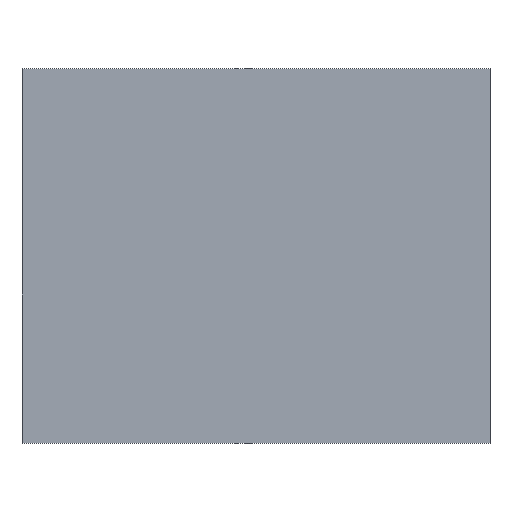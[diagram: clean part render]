
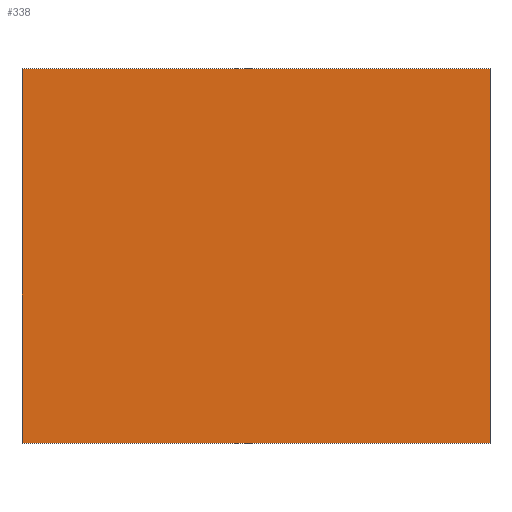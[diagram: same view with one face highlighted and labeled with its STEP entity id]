
A CAD part, top view. The second image highlights one B-rep face of the part: STEP entity #338.
In plain terms, the highlighted planar face has unit normal (0, 0, 1).
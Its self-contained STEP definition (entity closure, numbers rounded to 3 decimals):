
#24 = VERTEX_POINT('',#25);
#25 = CARTESIAN_POINT('',(100.,-80.,20.));
#32 = PLANE('',#33);
#33 = AXIS2_PLACEMENT_3D('',#34,#35,#36);
#34 = CARTESIAN_POINT('',(100.,-80.,0.));
#35 = DIRECTION('',(-0.,1.,-0.));
#36 = DIRECTION('',(1.,0.,0.));
#44 = PLANE('',#45);
#45 = AXIS2_PLACEMENT_3D('',#46,#47,#48);
#46 = CARTESIAN_POINT('',(100.,80.,0.));
#47 = DIRECTION('',(-1.,-0.,-0.));
#48 = DIRECTION('',(0.,1.,0.));
#56 = EDGE_CURVE('',#24,#57,#59,.T.);
#57 = VERTEX_POINT('',#58);
#58 = CARTESIAN_POINT('',(-100.,-80.,20.));
#59 = SURFACE_CURVE('',#60,(#64,#71),.PCURVE_S1.);
#60 = LINE('',#61,#62);
#61 = CARTESIAN_POINT('',(100.,-80.,20.));
#62 = VECTOR('',#63,1.);
#63 = DIRECTION('',(-1.,-0.,-0.));
#64 = PCURVE('',#32,#65);
#65 = DEFINITIONAL_REPRESENTATION('',(#66),#70);
#66 = LINE('',#67,#68);
#67 = CARTESIAN_POINT('',(-0.,-20.));
#68 = VECTOR('',#69,1.);
#69 = DIRECTION('',(-1.,0.));
#70 = ( GEOMETRIC_REPRESENTATION_CONTEXT(2) 
PARAMETRIC_REPRESENTATION_CONTEXT() REPRESENTATION_CONTEXT('2D SPACE',''
  ) );
#71 = PCURVE('',#72,#77);
#72 = PLANE('',#73);
#73 = AXIS2_PLACEMENT_3D('',#74,#75,#76);
#74 = CARTESIAN_POINT('',(0.,0.,20.));
#75 = DIRECTION('',(-0.,-0.,1.));
#76 = DIRECTION('',(1.,0.,0.));
#77 = DEFINITIONAL_REPRESENTATION('',(#78),#82);
#78 = LINE('',#79,#80);
#79 = CARTESIAN_POINT('',(100.,-80.));
#80 = VECTOR('',#81,1.);
#81 = DIRECTION('',(-1.,0.));
#82 = ( GEOMETRIC_REPRESENTATION_CONTEXT(2) 
PARAMETRIC_REPRESENTATION_CONTEXT() REPRESENTATION_CONTEXT('2D SPACE',''
  ) );
#100 = PLANE('',#101);
#101 = AXIS2_PLACEMENT_3D('',#102,#103,#104);
#102 = CARTESIAN_POINT('',(-100.,-80.,0.));
#103 = DIRECTION('',(1.,-0.,-0.));
#104 = DIRECTION('',(0.,-1.,0.));
#142 = EDGE_CURVE('',#57,#143,#145,.T.);
#143 = VERTEX_POINT('',#144);
#144 = CARTESIAN_POINT('',(-100.,80.,20.));
#145 = SURFACE_CURVE('',#146,(#150,#157),.PCURVE_S1.);
#146 = LINE('',#147,#148);
#147 = CARTESIAN_POINT('',(-100.,-80.,20.));
#148 = VECTOR('',#149,1.);
#149 = DIRECTION('',(-0.,1.,-0.));
#150 = PCURVE('',#100,#151);
#151 = DEFINITIONAL_REPRESENTATION('',(#152),#156);
#152 = LINE('',#153,#154);
#153 = CARTESIAN_POINT('',(-0.,-20.));
#154 = VECTOR('',#155,1.);
#155 = DIRECTION('',(-1.,0.));
#156 = ( GEOMETRIC_REPRESENTATION_CONTEXT(2) 
PARAMETRIC_REPRESENTATION_CONTEXT() REPRESENTATION_CONTEXT('2D SPACE',''
  ) );
#157 = PCURVE('',#72,#158);
#158 = DEFINITIONAL_REPRESENTATION('',(#159),#163);
#159 = LINE('',#160,#161);
#160 = CARTESIAN_POINT('',(-100.,-80.));
#161 = VECTOR('',#162,1.);
#162 = DIRECTION('',(-0.,1.));
#163 = ( GEOMETRIC_REPRESENTATION_CONTEXT(2) 
PARAMETRIC_REPRESENTATION_CONTEXT() REPRESENTATION_CONTEXT('2D SPACE',''
  ) );
#181 = PLANE('',#182);
#182 = AXIS2_PLACEMENT_3D('',#183,#184,#185);
#183 = CARTESIAN_POINT('',(-100.,80.,0.));
#184 = DIRECTION('',(-0.,-1.,-0.));
#185 = DIRECTION('',(-1.,0.,0.));
#218 = EDGE_CURVE('',#143,#219,#221,.T.);
#219 = VERTEX_POINT('',#220);
#220 = CARTESIAN_POINT('',(100.,80.,20.));
#221 = SURFACE_CURVE('',#222,(#226,#233),.PCURVE_S1.);
#222 = LINE('',#223,#224);
#223 = CARTESIAN_POINT('',(-100.,80.,20.));
#224 = VECTOR('',#225,1.);
#225 = DIRECTION('',(1.,-0.,-0.));
#226 = PCURVE('',#181,#227);
#227 = DEFINITIONAL_REPRESENTATION('',(#228),#232);
#228 = LINE('',#229,#230);
#229 = CARTESIAN_POINT('',(-0.,-20.));
#230 = VECTOR('',#231,1.);
#231 = DIRECTION('',(-1.,0.));
#232 = ( GEOMETRIC_REPRESENTATION_CONTEXT(2) 
PARAMETRIC_REPRESENTATION_CONTEXT() REPRESENTATION_CONTEXT('2D SPACE',''
  ) );
#233 = PCURVE('',#72,#234);
#234 = DEFINITIONAL_REPRESENTATION('',(#235),#239);
#235 = LINE('',#236,#237);
#236 = CARTESIAN_POINT('',(-100.,80.));
#237 = VECTOR('',#238,1.);
#238 = DIRECTION('',(1.,-0.));
#239 = ( GEOMETRIC_REPRESENTATION_CONTEXT(2) 
PARAMETRIC_REPRESENTATION_CONTEXT() REPRESENTATION_CONTEXT('2D SPACE',''
  ) );
#289 = EDGE_CURVE('',#219,#24,#290,.T.);
#290 = SURFACE_CURVE('',#291,(#295,#302),.PCURVE_S1.);
#291 = LINE('',#292,#293);
#292 = CARTESIAN_POINT('',(100.,80.,20.));
#293 = VECTOR('',#294,1.);
#294 = DIRECTION('',(-0.,-1.,-0.));
#295 = PCURVE('',#44,#296);
#296 = DEFINITIONAL_REPRESENTATION('',(#297),#301);
#297 = LINE('',#298,#299);
#298 = CARTESIAN_POINT('',(-0.,-20.));
#299 = VECTOR('',#300,1.);
#300 = DIRECTION('',(-1.,0.));
#301 = ( GEOMETRIC_REPRESENTATION_CONTEXT(2) 
PARAMETRIC_REPRESENTATION_CONTEXT() REPRESENTATION_CONTEXT('2D SPACE',''
  ) );
#302 = PCURVE('',#72,#303);
#303 = DEFINITIONAL_REPRESENTATION('',(#304),#308);
#304 = LINE('',#305,#306);
#305 = CARTESIAN_POINT('',(100.,80.));
#306 = VECTOR('',#307,1.);
#307 = DIRECTION('',(-0.,-1.));
#308 = ( GEOMETRIC_REPRESENTATION_CONTEXT(2) 
PARAMETRIC_REPRESENTATION_CONTEXT() REPRESENTATION_CONTEXT('2D SPACE',''
  ) );
#338 = ADVANCED_FACE('',(#339),#72,.T.);
#339 = FACE_BOUND('',#340,.F.);
#340 = EDGE_LOOP('',(#341,#342,#343,#344));
#341 = ORIENTED_EDGE('',*,*,#56,.T.);
#342 = ORIENTED_EDGE('',*,*,#142,.T.);
#343 = ORIENTED_EDGE('',*,*,#218,.T.);
#344 = ORIENTED_EDGE('',*,*,#289,.T.);
